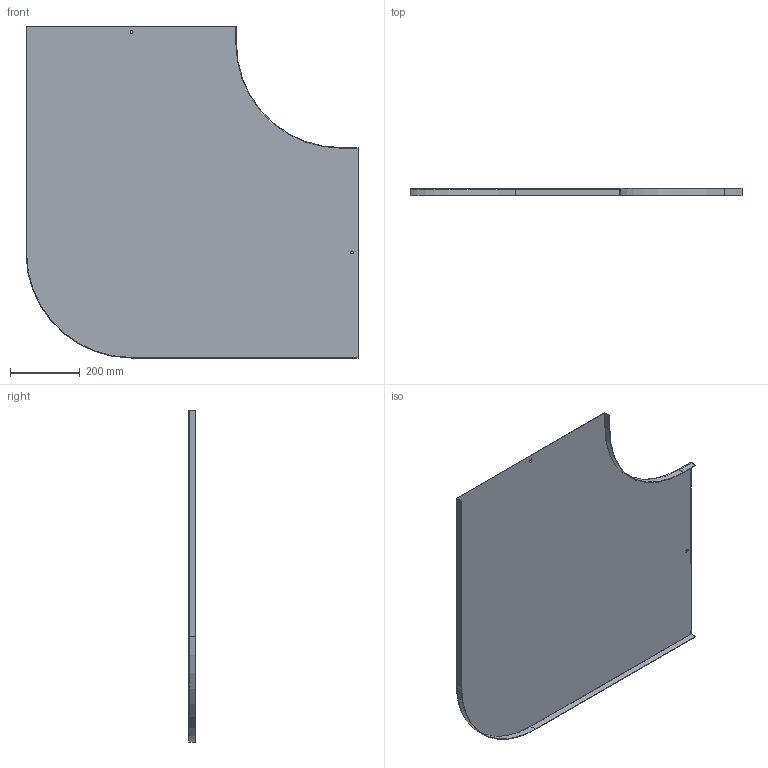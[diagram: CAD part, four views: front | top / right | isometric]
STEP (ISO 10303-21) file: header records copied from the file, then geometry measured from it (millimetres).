
FILE_DESCRIPTION (( 'STEP AP214' ), '1' );
FILE_NAME ('B2_10N3R600.step', '2025-02-21T10:54:32', ( '' ), ( '' ), 'SwSTEP 2.0', 'SolidWorks 2023', '' );
FILE_SCHEMA (( 'AUTOMOTIVE_DESIGN' ));
Length unit declared in the file: millimetre
Products named in the file (1): B2_10N3R600
Bounding box: 951.5 x 20 x 951.5 mm (x, y, z)
Volume: 1240098.8 mm3; surface area: 1658991.8 mm2
Topology: 1 solids, 1 shells, 26 faces, 72 edges, 48 vertices
Faces by surface type: plane 22, cylinder 4
Entity records: 855 total; most frequent: CARTESIAN_POINT 147, ORIENTED_EDGE 144, DIRECTION 134, EDGE_CURVE 72, VECTOR 64, LINE 64, VERTEX_POINT 48, AXIS2_PLACEMENT_3D 35
